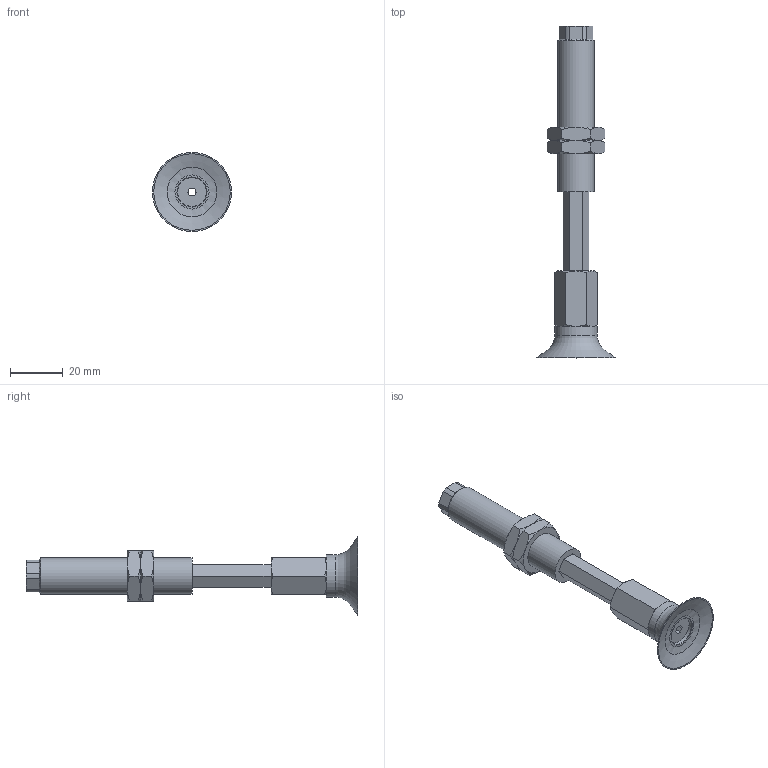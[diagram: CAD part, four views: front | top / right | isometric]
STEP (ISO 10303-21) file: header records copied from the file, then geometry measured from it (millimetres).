
FILE_DESCRIPTION(('STEP AP203'),'1');
FILE_NAME('.stp','2025-08-27T03:24:01',(' '),(' '),'Spatial InterOp 3D',' ',' ');
FILE_SCHEMA(('CONFIG_CONTROL_DESIGN'));
Length unit declared in the file: millimetre
Products named in the file (7): BNABPFTH-30-30-※; ADAPTER; NAPFTH-30-30-MBODY; TN-PF-30-M6-NAPF; Nut-30-30-h; NAPFTH-30-30-FBODY; BPFG-30-※
Assembly tree (7 placements, depth 2):
  BNABPFTH-30-30-※
    ADAPTER
    NAPFTH-30-30-MBODY
    TN-PF-30-M6-NAPF
    Nut-30-30-h  x2
    NAPFTH-30-30-FBODY
    BPFG-30-※
Bounding box: 30 x 126 x 30 mm (x, y, z)
Volume: 18527.4 mm3; surface area: 14331.1 mm2
Topology: 7 solids, 7 shells, 139 faces, 302 edges, 183 vertices
Faces by surface type: plane 68, cone 46, cylinder 19, torus 5, bspline 1
Full cylindrical faces by diameter (mm): 3 x3, 4.134 x1, 4.917 x1, 6 x2, 11 x2, 12.917 x2, 14 x1, 16 x1
Entity records: 3617 total; most frequent: CARTESIAN_POINT 863, DIRECTION 502, ORIENTED_EDGE 448, EDGE_CURVE 224, AXIS2_PLACEMENT_3D 203, EDGE_LOOP 160, VERTEX_POINT 152, FACE_OUTER_BOUND 134
